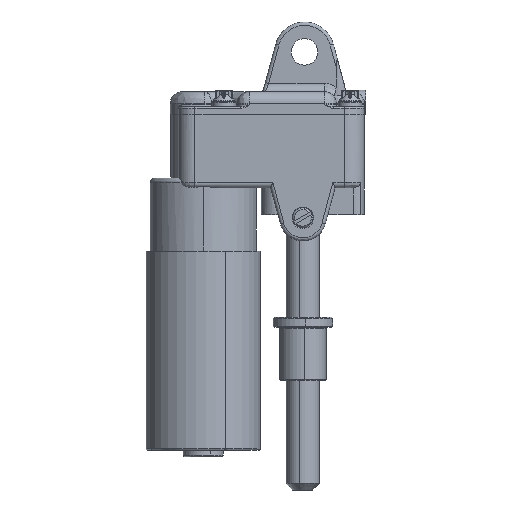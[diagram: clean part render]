
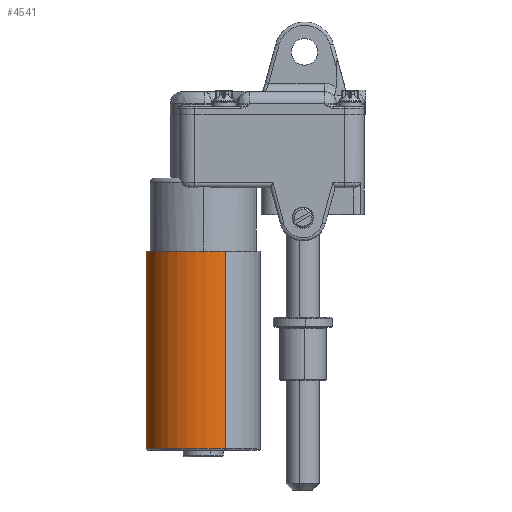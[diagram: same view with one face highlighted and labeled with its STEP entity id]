
A CAD part, left-side view. The second image highlights one B-rep face of the part: STEP entity #4541.
In plain terms, the highlighted cylindrical face has radius 17.25 mm (diameter 34.5 mm), a partial arc.
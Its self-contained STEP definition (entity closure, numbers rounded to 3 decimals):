
#1002 = CARTESIAN_POINT ( 'NONE',  ( 17.25, 0., 59.5 ) ) ;
#1039 = DIRECTION ( 'NONE',  ( -1., 0., 0. ) ) ;
#1040 = DIRECTION ( 'NONE',  ( 0., 0., -1. ) ) ;
#1041 = CARTESIAN_POINT ( 'NONE',  ( 0., 0., 60. ) ) ;
#1042 = AXIS2_PLACEMENT_3D ( 'NONE', #1041, #1040, #1039 ) ;
#1044 = CYLINDRICAL_SURFACE ( 'NONE', #1042, 17.25 ) ;
#1045 = FACE_OUTER_BOUND ( 'NONE', #4538, .T. ) ;
#1084 = CARTESIAN_POINT ( 'NONE',  ( -17.25, 0., 0. ) ) ;
#1090 = CARTESIAN_POINT ( 'NONE',  ( 17.25, 0., 0. ) ) ;
#1091 = DIRECTION ( 'NONE',  ( -1., 0., 0. ) ) ;
#1092 = DIRECTION ( 'NONE',  ( 0., 0., -1. ) ) ;
#1093 = CARTESIAN_POINT ( 'NONE',  ( 0., 0., 59.5 ) ) ;
#1094 = AXIS2_PLACEMENT_3D ( 'NONE', #1093, #1092, #1091 ) ;
#1095 = CIRCLE ( 'NONE', #1094, 17.25 ) ;
#1096 = CARTESIAN_POINT ( 'NONE',  ( -17.25, 0., 59.5 ) ) ;
#1111 = DIRECTION ( 'NONE',  ( 0., 0., 1. ) ) ;
#1112 = VECTOR ( 'NONE', #1111, 1000. ) ;
#1113 = CARTESIAN_POINT ( 'NONE',  ( 17.25, 0., 60. ) ) ;
#1114 = LINE ( 'NONE', #1113, #1112 ) ;
#1116 = DIRECTION ( 'NONE',  ( 0., 0., -1. ) ) ;
#1117 = VECTOR ( 'NONE', #1116, 1000. ) ;
#1118 = CARTESIAN_POINT ( 'NONE',  ( -17.25, 0., 60. ) ) ;
#1119 = LINE ( 'NONE', #1118, #1117 ) ;
#1120 = DIRECTION ( 'NONE',  ( -1., 0., 0. ) ) ;
#1121 = DIRECTION ( 'NONE',  ( 0., 0., 1. ) ) ;
#1122 = CARTESIAN_POINT ( 'NONE',  ( 0., 0., 0. ) ) ;
#1123 = AXIS2_PLACEMENT_3D ( 'NONE', #1122, #1121, #1120 ) ;
#1124 = CIRCLE ( 'NONE', #1123, 17.25 ) ;
#4517 = VERTEX_POINT ( 'NONE', #1002 ) ;
#4538 = EDGE_LOOP ( 'NONE', ( #4569, #4560, #4563, #4565 ) ) ;
#4541 = ADVANCED_FACE ( 'NONE', ( #1045 ), #1044, .T. ) ;
#4552 = VERTEX_POINT ( 'NONE', #1096 ) ;
#4553 = EDGE_CURVE ( 'NONE', #4552, #4517, #1095, .T. ) ;
#4555 = VERTEX_POINT ( 'NONE', #1090 ) ;
#4558 = VERTEX_POINT ( 'NONE', #1084 ) ;
#4560 = ORIENTED_EDGE ( 'NONE', *, *, #4581, .F. ) ;
#4563 = ORIENTED_EDGE ( 'NONE', *, *, #4553, .T. ) ;
#4565 = ORIENTED_EDGE ( 'NONE', *, *, #4582, .F. ) ;
#4569 = ORIENTED_EDGE ( 'NONE', *, *, #4579, .T. ) ;
#4579 = EDGE_CURVE ( 'NONE', #4555, #4558, #1124, .T. ) ;
#4581 = EDGE_CURVE ( 'NONE', #4552, #4558, #1119, .T. ) ;
#4582 = EDGE_CURVE ( 'NONE', #4555, #4517, #1114, .T. ) ;
